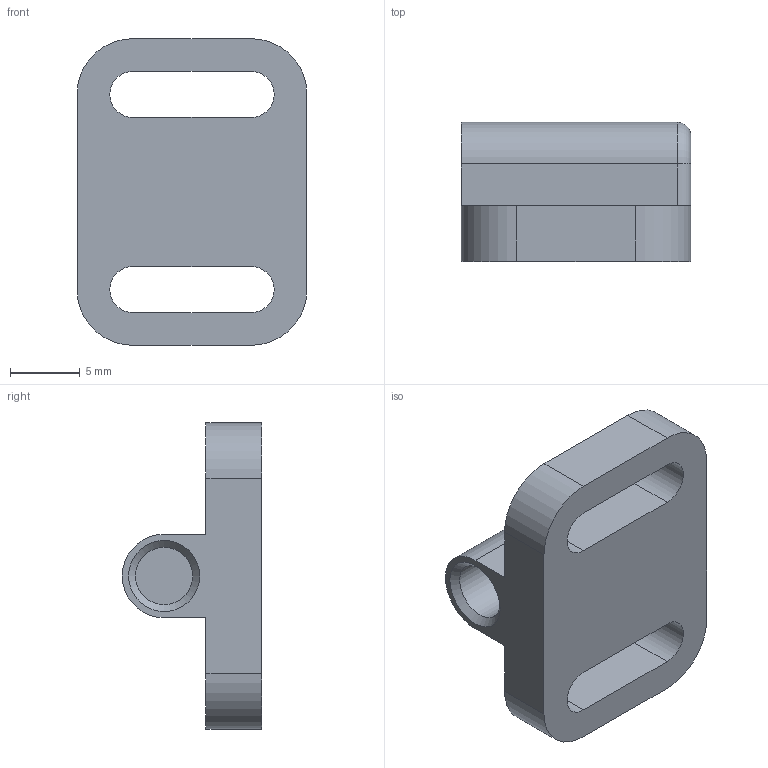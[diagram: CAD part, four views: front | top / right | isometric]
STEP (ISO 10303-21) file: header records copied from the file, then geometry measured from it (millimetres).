
FILE_DESCRIPTION( ( 'STEP AP203' ), '1' );
FILE_NAME( 'C:/Temp/Ganter_Step_05_03_2020/data/3_1/gn_417_1/Locator GN 417.1-4-ST-SW.stp', '2020-03-12T09:12:09', ( 'License CC BY-ND 4.0' ), ( 'CADENAS' ), ' ', 'PARTsolutions', ' ' );
FILE_SCHEMA( ( 'CONFIG_CONTROL_DESIGN' ) );
Length unit declared in the file: millimetre
Products named in the file (1): _Locator GN 417.1-4-ST-SW
Bounding box: 16.5 x 10 x 22 mm (x, y, z)
Volume: 1438.2 mm3; surface area: 1448.3 mm2
Topology: 1 solids, 1 shells, 28 faces, 72 edges, 47 vertices
Faces by surface type: plane 14, cylinder 12, cone 1, torus 1
Full cylindrical faces by diameter (mm): 4.1 x1
Entity records: 900 total; most frequent: DIRECTION 154, CARTESIAN_POINT 146, ORIENTED_EDGE 140, EDGE_CURVE 70, AXIS2_PLACEMENT_3D 55, VERTEX_POINT 47, LINE 44, VECTOR 44
